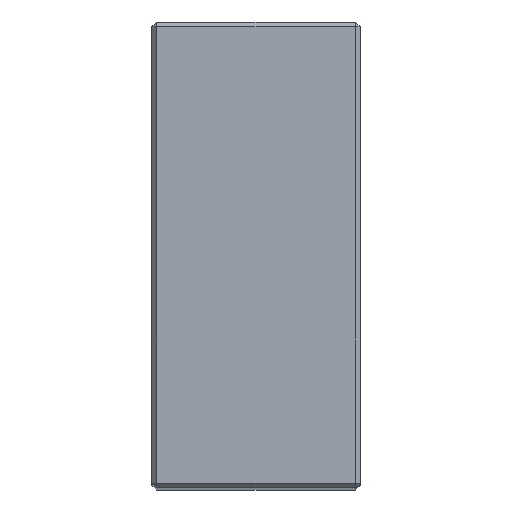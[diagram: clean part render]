
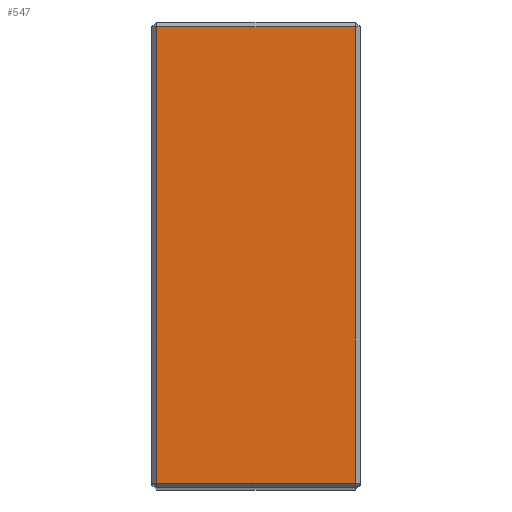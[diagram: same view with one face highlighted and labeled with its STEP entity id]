
A CAD part, top view. The second image highlights one B-rep face of the part: STEP entity #547.
In plain terms, the highlighted planar face has unit normal (0, 0, 1).
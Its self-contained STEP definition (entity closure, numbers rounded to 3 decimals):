
#10 = CARTESIAN_POINT ( 'NONE',  ( 21.5, 1., 123. ) ) ;
#14 = LINE ( 'NONE', #298, #640 ) ;
#35 = ORIENTED_EDGE ( 'NONE', *, *, #572, .T. ) ;
#54 = ORIENTED_EDGE ( 'NONE', *, *, #646, .T. ) ;
#57 = DIRECTION ( 'NONE',  ( 0., 0., -1. ) ) ;
#83 = VERTEX_POINT ( 'NONE', #276 ) ;
#101 = DIRECTION ( 'NONE',  ( -1., 0., 0. ) ) ;
#103 = CARTESIAN_POINT ( 'NONE',  ( 21.5, 96., 123. ) ) ;
#191 = DIRECTION ( 'NONE',  ( 1., 0., 0. ) ) ;
#196 = DIRECTION ( 'NONE',  ( 0., 1., 0. ) ) ;
#216 = CARTESIAN_POINT ( 'NONE',  ( -20.5, 1., 123. ) ) ;
#220 = PLANE ( 'NONE',  #463 ) ;
#256 = ORIENTED_EDGE ( 'NONE', *, *, #522, .T. ) ;
#272 = EDGE_CURVE ( 'NONE', #434, #83, #496, .T. ) ;
#276 = CARTESIAN_POINT ( 'NONE',  ( 20.5, 1., 123. ) ) ;
#298 = CARTESIAN_POINT ( 'NONE',  ( -20.5, 96., 123. ) ) ;
#316 = LINE ( 'NONE', #457, #332 ) ;
#332 = VECTOR ( 'NONE', #196, 1000. ) ;
#354 = VECTOR ( 'NONE', #599, 1000. ) ;
#391 = ORIENTED_EDGE ( 'NONE', *, *, #272, .T. ) ;
#405 = CARTESIAN_POINT ( 'NONE',  ( -20.5, 95., 123. ) ) ;
#417 = VERTEX_POINT ( 'NONE', #405 ) ;
#423 = DIRECTION ( 'NONE',  ( 0., -1., 0. ) ) ;
#434 = VERTEX_POINT ( 'NONE', #216 ) ;
#439 = FACE_OUTER_BOUND ( 'NONE', #546, .T. ) ;
#457 = CARTESIAN_POINT ( 'NONE',  ( 20.5, 96., 123. ) ) ;
#463 = AXIS2_PLACEMENT_3D ( 'NONE', #103, #57, #101 ) ;
#496 = LINE ( 'NONE', #10, #516 ) ;
#516 = VECTOR ( 'NONE', #191, 1000. ) ;
#522 = EDGE_CURVE ( 'NONE', #417, #434, #14, .T. ) ;
#531 = CARTESIAN_POINT ( 'NONE',  ( 20.5, 95., 123. ) ) ;
#546 = EDGE_LOOP ( 'NONE', ( #35, #256, #391, #54 ) ) ;
#547 = ADVANCED_FACE ( 'NONE', ( #439 ), #220, .F. ) ;
#566 = LINE ( 'NONE', #593, #354 ) ;
#572 = EDGE_CURVE ( 'NONE', #581, #417, #566, .T. ) ;
#581 = VERTEX_POINT ( 'NONE', #531 ) ;
#593 = CARTESIAN_POINT ( 'NONE',  ( -21.5, 95., 123. ) ) ;
#599 = DIRECTION ( 'NONE',  ( -1., 0., 0. ) ) ;
#640 = VECTOR ( 'NONE', #423, 1000. ) ;
#646 = EDGE_CURVE ( 'NONE', #83, #581, #316, .T. ) ;
